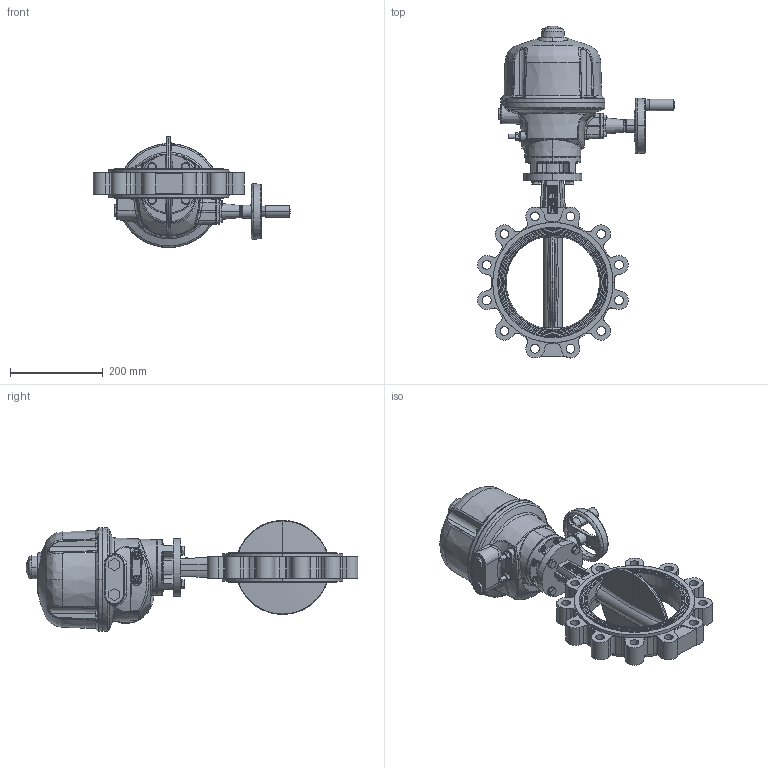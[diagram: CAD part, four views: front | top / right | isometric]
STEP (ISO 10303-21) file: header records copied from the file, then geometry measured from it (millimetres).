
FILE_DESCRIPTION (( 'STEP AP214' ), '1' );
FILE_NAME ('VPG464X-BX4XX0200.step', '2022-09-20T11:23:38', ( '' ), ( '' ), 'SwSTEP 2.0', 'SolidWorks 2020', '' );
FILE_SCHEMA (( 'AUTOMOTIVE_DESIGN' ));
Length unit declared in the file: millimetre
Products named in the file (1): VPG464X-BX4XX0200
Bounding box: 424.59 x 715.13 x 239.28 mm (x, y, z)
Surface area: 659711.5 mm2 (no closed solid volume)
Topology: 0 solids, 65 shells, 1154 faces, 5564 edges, 4405 vertices
Faces by surface type: plane 384, bspline 332, cylinder 287, cone 147, torus 4
Entity records: 98828 total; most frequent: CARTESIAN_POINT 46211, ORIENTED_EDGE 8027, DIRECTION 6775, EDGE_CURVE 5541, VERTEX_POINT 4405, LINE 2623, VECTOR 2623, AXIS2_PLACEMENT_3D 2076
